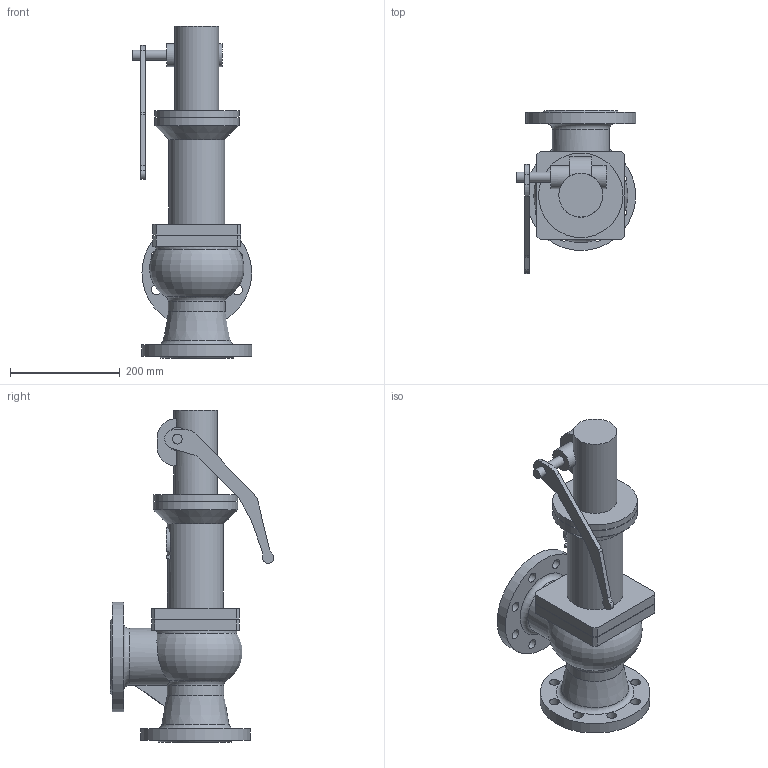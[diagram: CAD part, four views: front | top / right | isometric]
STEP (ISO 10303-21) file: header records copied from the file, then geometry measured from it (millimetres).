
FILE_DESCRIPTION(('STEP AP203'), '1');
FILE_NAME('Êëàïàí ïðåäîõðàíèòåëüíûé ñðåäíåïîäüåìíûé SV1F 80x80', '', ('UNSPECIFIED'), ('UNSPECIFIED'), 'ASCON STEP Converter 1.6', 'ASCON Math Kernel', '');
FILE_SCHEMA(('CONFIG_CONTROL_DESIGN'));
Length unit declared in the file: millimetre
Bounding box: 217.5 x 297.37 x 605 mm (x, y, z)
Volume: 5792070.3 mm3; surface area: 664188.5 mm2
Topology: 1 solids, 3 shells, 137 faces, 339 edges, 225 vertices
Faces by surface type: plane 73, cylinder 55, torus 5, cone 4
Full cylindrical faces by diameter (mm): 18 x18, 42 x2, 60 x1, 80 x4, 82 x1, 102 x1, 104 x1, 134 x1, 137 x1, 154 x2, 200 x2
Entity records: 6614 total; most frequent: CARTESIAN_POINT 2290, DIRECTION 654, ORIENTED_EDGE 588, EDGE_CURVE 294, AXIS2_PLACEMENT_3D 259, EDGE_LOOP 231, VERTEX_POINT 225, FACE_BOUND 155
